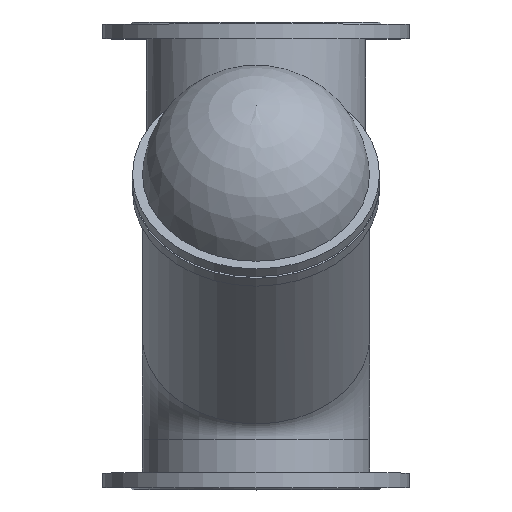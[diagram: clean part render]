
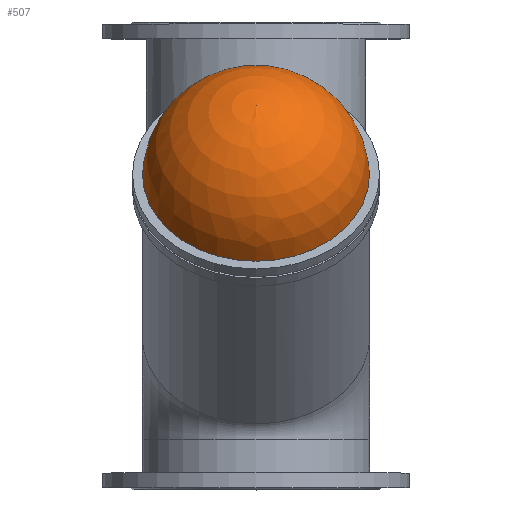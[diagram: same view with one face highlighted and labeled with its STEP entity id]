
A CAD part, top view. The second image highlights one B-rep face of the part: STEP entity #507.
In plain terms, the highlighted spherical face has radius 170.312 mm.
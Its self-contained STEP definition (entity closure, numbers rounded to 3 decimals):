
#507=ADVANCED_FACE('',(#1065),#1067,.T.);
#1065=FACE_OUTER_BOUND('',#1066,.T.);
#1066=EDGE_LOOP('',(#1249));
#1067=SPHERICAL_SURFACE('',#1068,170.313);
#1068=AXIS2_PLACEMENT_3D('',#1069,#1070,#1071);
#1069=CARTESIAN_POINT('',(0.,114.89,353.184));
#1070=DIRECTION('',(0.,0.643,0.766));
#1071=DIRECTION('',(0.,-0.766,0.643));
#1249=ORIENTED_EDGE('',*,*,#1338,.T.);
#1338=EDGE_CURVE('',#1511,#1511,#1512,.T.);
#1511=VERTEX_POINT('',#2318);
#1512=CIRCLE('',#2319,170.);
#2318=CARTESIAN_POINT('',(0.,-8.708,470.358));
#2319=AXIS2_PLACEMENT_3D('',#2320,#2321,#2322);
#2320=CARTESIAN_POINT('',(0.,121.519,361.084));
#2321=DIRECTION('',(0.,0.643,0.766));
#2322=DIRECTION('',(0.,-0.766,0.643));
